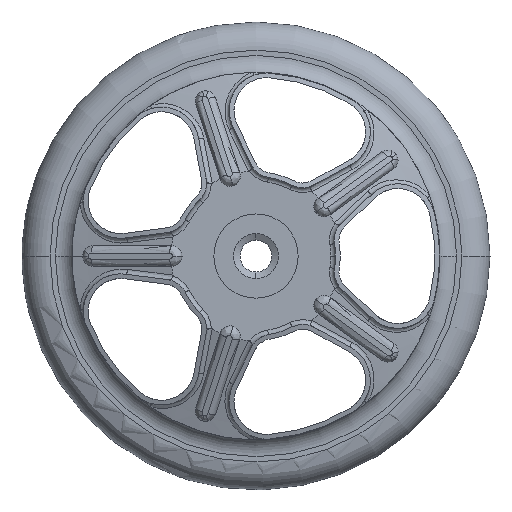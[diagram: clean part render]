
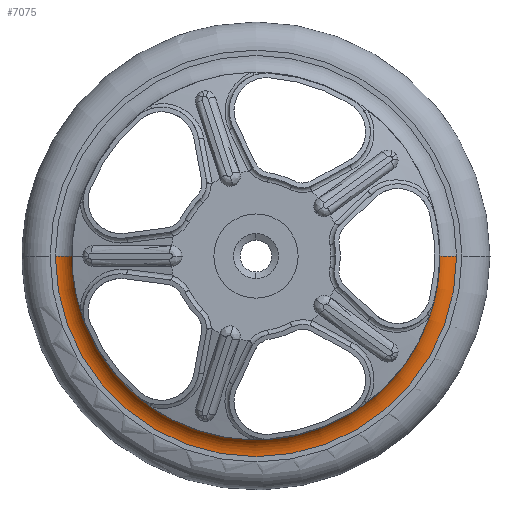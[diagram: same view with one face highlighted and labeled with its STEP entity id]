
A CAD part, left-side view. The second image highlights one B-rep face of the part: STEP entity #7075.
In plain terms, the highlighted toroidal (fillet/blend) face has major radius 107.162 mm and minor radius 10 mm.
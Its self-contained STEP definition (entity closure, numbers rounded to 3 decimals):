
#147 = FACE_OUTER_BOUND ( 'NONE', #13670, .T. ) ;
#609 = DIRECTION ( 'NONE',  ( 0., 1., 0. ) ) ;
#1152 = DIRECTION ( 'NONE',  ( 0., 0., 1. ) ) ;
#1536 = CARTESIAN_POINT ( 'NONE',  ( 11.5, 0., 0. ) ) ;
#1735 = DIRECTION ( 'NONE',  ( -1., 0., 0. ) ) ;
#1940 = DIRECTION ( 'NONE',  ( 0., 1., 0. ) ) ;
#2183 = CIRCLE ( 'NONE', #15312, 10. ) ;
#2545 = AXIS2_PLACEMENT_3D ( 'NONE', #17063, #7378, #609 ) ;
#3386 = EDGE_CURVE ( 'NONE', #6707, #7469, #3858, .T. ) ;
#3397 = CIRCLE ( 'NONE', #8811, 107.162 ) ;
#3575 = TOROIDAL_SURFACE ( 'NONE', #7300, 107.162, 10. ) ;
#3858 = CIRCLE ( 'NONE', #6246, 10. ) ;
#4294 = CARTESIAN_POINT ( 'NONE',  ( 21.5, 107.162, 0. ) ) ;
#5540 = ORIENTED_EDGE ( 'NONE', *, *, #3386, .F. ) ;
#5577 = CIRCLE ( 'NONE', #2545, 98.232 ) ;
#5876 = EDGE_CURVE ( 'NONE', #14001, #7469, #5577, .T. ) ;
#6246 = AXIS2_PLACEMENT_3D ( 'NONE', #16194, #14213, #1735 ) ;
#6707 = VERTEX_POINT ( 'NONE', #4294 ) ;
#6711 = CARTESIAN_POINT ( 'NONE',  ( 21.5, 0., 0. ) ) ;
#7075 = ADVANCED_FACE ( 'NONE', ( #147 ), #3575, .F. ) ;
#7300 = AXIS2_PLACEMENT_3D ( 'NONE', #1536, #8292, #1940 ) ;
#7378 = DIRECTION ( 'NONE',  ( 1., 0., 0. ) ) ;
#7469 = VERTEX_POINT ( 'NONE', #10160 ) ;
#8008 = CARTESIAN_POINT ( 'NONE',  ( 21.5, -107.162, 0. ) ) ;
#8203 = DIRECTION ( 'NONE',  ( 0., 1., 0. ) ) ;
#8292 = DIRECTION ( 'NONE',  ( 1., 0., 0. ) ) ;
#8811 = AXIS2_PLACEMENT_3D ( 'NONE', #6711, #19478, #8203 ) ;
#9202 = DIRECTION ( 'NONE',  ( 0., -1., 0. ) ) ;
#10160 = CARTESIAN_POINT ( 'NONE',  ( 16., 98.232, 0. ) ) ;
#11570 = ORIENTED_EDGE ( 'NONE', *, *, #19097, .T. ) ;
#13161 = ORIENTED_EDGE ( 'NONE', *, *, #16269, .F. ) ;
#13337 = VERTEX_POINT ( 'NONE', #8008 ) ;
#13670 = EDGE_LOOP ( 'NONE', ( #13161, #11570, #13934, #5540 ) ) ;
#13740 = CARTESIAN_POINT ( 'NONE',  ( 11.5, -107.162, 0. ) ) ;
#13934 = ORIENTED_EDGE ( 'NONE', *, *, #5876, .T. ) ;
#14001 = VERTEX_POINT ( 'NONE', #18079 ) ;
#14213 = DIRECTION ( 'NONE',  ( 0., 0., -1. ) ) ;
#15312 = AXIS2_PLACEMENT_3D ( 'NONE', #13740, #1152, #9202 ) ;
#16194 = CARTESIAN_POINT ( 'NONE',  ( 11.5, 107.162, 0. ) ) ;
#16269 = EDGE_CURVE ( 'NONE', #13337, #6707, #3397, .T. ) ;
#17063 = CARTESIAN_POINT ( 'NONE',  ( 16., 0., 0. ) ) ;
#18079 = CARTESIAN_POINT ( 'NONE',  ( 16., -98.232, 0. ) ) ;
#19097 = EDGE_CURVE ( 'NONE', #13337, #14001, #2183, .T. ) ;
#19478 = DIRECTION ( 'NONE',  ( 1., 0., 0. ) ) ;
